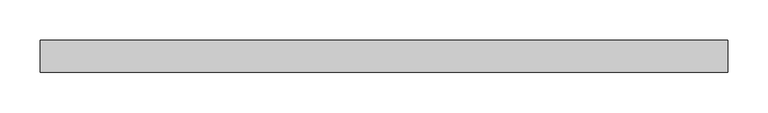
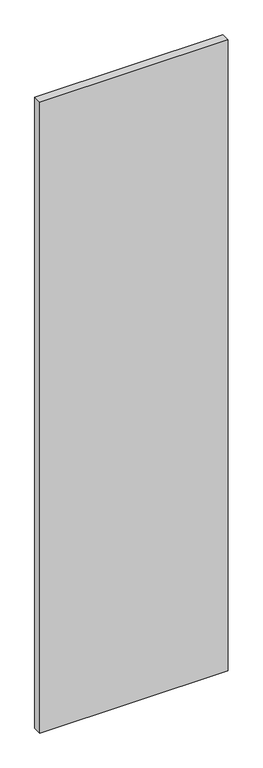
"""IFC4 building model written with IfcOpenShell, lengths in millimetres: plate geometry, Vitré."""

from ifc_helpers import new_model, si_unit, origin, origin_with_axes, place, context, project, spatial, polyline, outline, extrude, source, transform, mapped, element, save


def plate_d28ee7b2(model_context):
    return source(origin(), model_context, "Body", "SweptSolid", [
        extrude(outline(polyline([(-429.40625, -20.0), (-429.40625, 20.0), (429.40625, 20.0), (429.40625, -20.0), (-429.40625, -20.0)])), origin_with_axes(), (0.0, 0.0, 1.0), 3042.625),
    ])


if __name__ == "__main__":
    model = new_model("IFC4")
    model_context = context("Model", 3, world=origin())
    ifc_project = project(units=[si_unit("LENGTHUNIT", "METRE", prefix="MILLI")], contexts=[model_context])
    site = spatial("IfcSite", under=ifc_project)
    building = spatial("IfcBuilding", under=site)
    placement = place(None, origin())
    plate_shape = plate_d28ee7b2(model_context)
    element("IfcPlate", 1, ObjectType="Vitré", at=placement, inside=building, context=model_context, shape_type="MappedRepresentation", body=[
        mapped(plate_shape, transform((0.0, 0.0, 0.0), x_axis=(1.0, 0.0, 0.0), y_axis=(0.0, 1.0, 0.0), z_axis=(0.0, 0.0, 1.0))),
    ])
    save(model, "model.ifc")
